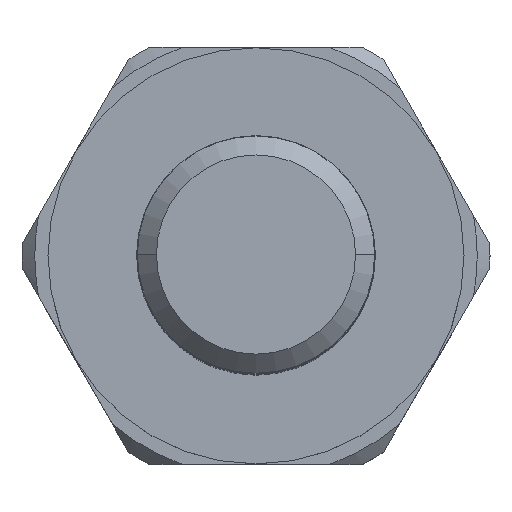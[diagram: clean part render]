
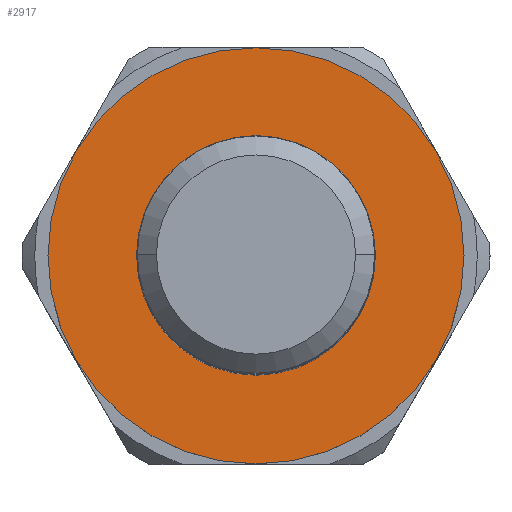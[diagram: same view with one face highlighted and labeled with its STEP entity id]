
A CAD part, top view. The second image highlights one B-rep face of the part: STEP entity #2917.
In plain terms, the highlighted planar face has unit normal (0, 0, 1).
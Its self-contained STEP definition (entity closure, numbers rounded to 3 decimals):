
#969=CARTESIAN_POINT('',(0.,0.,9.525));
#970=DIRECTION('',(0.,0.,-1.));
#971=DIRECTION('',(-1.,0.,0.));
#972=AXIS2_PLACEMENT_3D('',#969,#970,#971);
#974=CARTESIAN_POINT('',(0.,0.,9.525));
#975=DIRECTION('',(0.,0.,-1.));
#976=DIRECTION('',(1.,0.,0.));
#977=AXIS2_PLACEMENT_3D('',#974,#975,#976);
#979=CARTESIAN_POINT('',(0.,0.,9.525));
#980=DIRECTION('',(0.,0.,1.));
#981=DIRECTION('',(1.,0.,0.));
#982=AXIS2_PLACEMENT_3D('',#979,#980,#981);
#984=CARTESIAN_POINT('',(0.,0.,9.525));
#985=DIRECTION('',(0.,0.,1.));
#986=DIRECTION('',(-1.,0.,0.));
#987=AXIS2_PLACEMENT_3D('',#984,#985,#986);
#1547=CARTESIAN_POINT('',(11.087,0.,9.525));
#1548=CARTESIAN_POINT('',(-11.087,0.,9.525));
#1549=VERTEX_POINT('',#1547);
#1550=VERTEX_POINT('',#1548);
#1551=CARTESIAN_POINT('',(6.363,0.,9.525));
#1552=CARTESIAN_POINT('',(-6.363,0.,9.525));
#1553=VERTEX_POINT('',#1551);
#1554=VERTEX_POINT('',#1552);
#2901=CARTESIAN_POINT('',(0.,0.,9.525));
#2902=DIRECTION('',(0.,0.,1.));
#2903=DIRECTION('',(-1.,0.,0.));
#2904=AXIS2_PLACEMENT_3D('',#2901,#2902,#2903);
#2905=PLANE('',#2904);
#2907=ORIENTED_EDGE('',*,*,#2906,.T.);
#2908=ORIENTED_EDGE('',*,*,#2891,.T.);
#2909=EDGE_LOOP('',(#2907,#2908));
#2910=FACE_OUTER_BOUND('',#2909,.F.);
#2912=ORIENTED_EDGE('',*,*,#2911,.T.);
#2914=ORIENTED_EDGE('',*,*,#2913,.T.);
#2915=EDGE_LOOP('',(#2912,#2914));
#2916=FACE_BOUND('',#2915,.F.);
#2917=ADVANCED_FACE('',(#2910,#2916),#2905,.T.);
#973=CIRCLE('',#972,11.087);
#978=CIRCLE('',#977,11.087);
#983=CIRCLE('',#982,6.363);
#988=CIRCLE('',#987,6.363);
#2891=EDGE_CURVE('',#1549,#1550,#978,.T.);
#2906=EDGE_CURVE('',#1550,#1549,#973,.T.);
#2911=EDGE_CURVE('',#1553,#1554,#983,.T.);
#2913=EDGE_CURVE('',#1554,#1553,#988,.T.);
